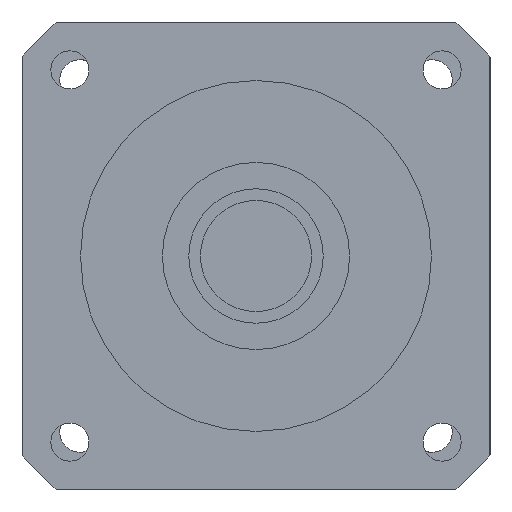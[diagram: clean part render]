
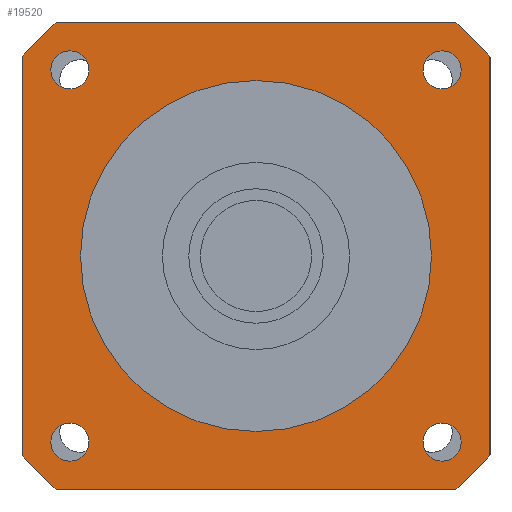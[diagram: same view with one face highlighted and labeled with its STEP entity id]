
A CAD part, left-side view. The second image highlights one B-rep face of the part: STEP entity #19520.
In plain terms, the highlighted planar face has unit normal (-1, 0, 0) as drawn and (0, 0, -1) by its records, which use the part's own axes.
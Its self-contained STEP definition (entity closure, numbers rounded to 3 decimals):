
#17850=CARTESIAN_POINT('',(28.57,-31.82,-42.));
#17860=VERTEX_POINT('',#17850);
#17890=CARTESIAN_POINT('',(31.82,-31.82,-42.));
#17900=DIRECTION('',(0.,0.,-1.));
#17910=DIRECTION('',(1.,0.,0.));
#17920=AXIS2_PLACEMENT_3D('',#17890,#17900,#17910);
#17930=CIRCLE('',#17920,3.25);
#17940=CARTESIAN_POINT('',(35.07,-31.82,-42.));
#17950=VERTEX_POINT('',#17940);
#17960=EDGE_CURVE('',#17950,#17860,#17930,.T.);
#18080=CARTESIAN_POINT('',(40.,40.,-42.));
#18090=DIRECTION('',(0.,0.,-1.));
#18100=DIRECTION('',(1.,0.,0.));
#18110=AXIS2_PLACEMENT_3D('',#18080,#18090,#18100);
#18120=PLANE('',#18110);
#18130=CARTESIAN_POINT('',(-31.82,-31.82,-42.));
#18140=DIRECTION('',(0.,0.,-1.));
#18150=DIRECTION('',(0.,-1.,0.));
#18160=AXIS2_PLACEMENT_3D('',#18130,#18140,#18150);
#18170=CIRCLE('',#18160,3.25);
#18180=CARTESIAN_POINT('',(-31.82,-35.07,-42.));
#18190=VERTEX_POINT('',#18180);
#18200=CARTESIAN_POINT('',(-31.82,-28.57,-42.));
#18210=VERTEX_POINT('',#18200);
#18220=EDGE_CURVE('',#18190,#18210,#18170,.T.);
#18230=ORIENTED_EDGE('',*,*,#18220,.F.);
#18240=EDGE_CURVE('',#18210,#18190,#18170,.T.);
#18250=ORIENTED_EDGE('',*,*,#18240,.F.);
#18260=EDGE_LOOP('',(#18250,#18230));
#18270=FACE_BOUND('',#18260,.T.);
#18280=CARTESIAN_POINT('',(-31.82,31.82,-42.));
#18290=DIRECTION('',(0.,0.,-1.));
#18300=DIRECTION('',(-1.,0.,0.));
#18310=AXIS2_PLACEMENT_3D('',#18280,#18290,#18300);
#18320=CIRCLE('',#18310,3.25);
#18330=CARTESIAN_POINT('',(-35.07,31.82,-42.));
#18340=VERTEX_POINT('',#18330);
#18350=CARTESIAN_POINT('',(-28.57,31.82,-42.));
#18360=VERTEX_POINT('',#18350);
#18370=EDGE_CURVE('',#18340,#18360,#18320,.T.);
#18380=ORIENTED_EDGE('',*,*,#18370,.F.);
#18390=EDGE_CURVE('',#18360,#18340,#18320,.T.);
#18400=ORIENTED_EDGE('',*,*,#18390,.F.);
#18410=EDGE_LOOP('',(#18400,#18380));
#18420=FACE_BOUND('',#18410,.T.);
#18430=CARTESIAN_POINT('',(31.82,31.82,-42.));
#18440=DIRECTION('',(0.,0.,-1.));
#18450=DIRECTION('',(0.,1.,0.));
#18460=AXIS2_PLACEMENT_3D('',#18430,#18440,#18450);
#18470=CIRCLE('',#18460,3.25);
#18480=CARTESIAN_POINT('',(31.82,35.07,-42.));
#18490=VERTEX_POINT('',#18480);
#18500=CARTESIAN_POINT('',(31.82,28.57,-42.));
#18510=VERTEX_POINT('',#18500);
#18520=EDGE_CURVE('',#18490,#18510,#18470,.T.);
#18530=ORIENTED_EDGE('',*,*,#18520,.F.);
#18540=EDGE_CURVE('',#18510,#18490,#18470,.T.);
#18550=ORIENTED_EDGE('',*,*,#18540,.F.);
#18560=EDGE_LOOP('',(#18550,#18530));
#18570=FACE_BOUND('',#18560,.T.);
#18580=CARTESIAN_POINT('',(0.,0.,
-42.));
#18590=DIRECTION('',(0.,0.,1.));
#18600=DIRECTION('',(0.,1.,0.));
#18610=AXIS2_PLACEMENT_3D('',#18580,#18590,#18600);
#18620=CIRCLE('',#18610,30.);
#18630=CARTESIAN_POINT('',(-30.,0.,-42.));
#18640=VERTEX_POINT('',#18630);
#18650=CARTESIAN_POINT('',(30.,0.,-42.));
#18660=VERTEX_POINT('',#18650);
#18670=EDGE_CURVE('',#18640,#18660,#18620,.T.);
#18680=ORIENTED_EDGE('',*,*,#18670,.T.);
#18690=CARTESIAN_POINT('',(0.,30.,-42.));
#18700=VERTEX_POINT('',#18690);
#18710=EDGE_CURVE('',#18700,#18640,#18620,.T.);
#18720=ORIENTED_EDGE('',*,*,#18710,.T.);
#18730=EDGE_CURVE('',#18660,#18700,#18620,.T.);
#18740=ORIENTED_EDGE('',*,*,#18730,.T.);
#18750=EDGE_LOOP('',(#18740,#18720,#18680));
#18760=FACE_BOUND('',#18750,.T.);
#18770=CARTESIAN_POINT('',(-40.,40.,-42.));
#18780=DIRECTION('',(1.,0.,0.));
#18790=VECTOR('',#18780,1000.);
#18800=LINE('',#18770,#18790);
#18810=CARTESIAN_POINT('',(-34.004,40.,-42.));
#18820=VERTEX_POINT('',#18810);
#18830=CARTESIAN_POINT('',(34.004,40.,-42.));
#18840=VERTEX_POINT('',#18830);
#18850=EDGE_CURVE('',#18820,#18840,#18800,.T.);
#18860=ORIENTED_EDGE('',*,*,#18850,.T.);
#18870=CARTESIAN_POINT('',(0.,0.,
-42.));
#18880=DIRECTION('',(0.,0.,-1.));
#18890=DIRECTION('',(1.,0.,0.));
#18900=AXIS2_PLACEMENT_3D('',#18870,#18880,#18890);
#18910=CIRCLE('',#18900,52.5);
#18920=CARTESIAN_POINT('',(-40.,34.004,-42.));
#18930=VERTEX_POINT('',#18920);
#18940=EDGE_CURVE('',#18930,#18820,#18910,.T.);
#18950=ORIENTED_EDGE('',*,*,#18940,.T.);
#18960=CARTESIAN_POINT('',(-40.,-40.,-42.));
#18970=DIRECTION('',(0.,1.,0.));
#18980=VECTOR('',#18970,1000.);
#18990=LINE('',#18960,#18980);
#19000=CARTESIAN_POINT('',(-40.,-34.004,-42.));
#19010=VERTEX_POINT('',#19000);
#19020=EDGE_CURVE('',#19010,#18930,#18990,.T.);
#19030=ORIENTED_EDGE('',*,*,#19020,.T.);
#19040=CARTESIAN_POINT('',(0.,0.,
-42.));
#19050=DIRECTION('',(0.,0.,-1.));
#19060=DIRECTION('',(1.,0.,0.));
#19070=AXIS2_PLACEMENT_3D('',#19040,#19050,#19060);
#19080=CIRCLE('',#19070,52.5);
#19090=CARTESIAN_POINT('',(-34.004,-40.,-42.));
#19100=VERTEX_POINT('',#19090);
#19110=EDGE_CURVE('',#19100,#19010,#19080,.T.);
#19120=ORIENTED_EDGE('',*,*,#19110,.T.);
#19130=CARTESIAN_POINT('',(40.,-40.,-42.));
#19140=DIRECTION('',(-1.,0.,0.));
#19150=VECTOR('',#19140,1000.);
#19160=LINE('',#19130,#19150);
#19170=CARTESIAN_POINT('',(34.004,-40.,-42.));
#19180=VERTEX_POINT('',#19170);
#19190=EDGE_CURVE('',#19180,#19100,#19160,.T.);
#19200=ORIENTED_EDGE('',*,*,#19190,.T.);
#19210=CARTESIAN_POINT('',(0.,0.,
-42.));
#19220=DIRECTION('',(0.,0.,-1.));
#19230=DIRECTION('',(1.,0.,0.));
#19240=AXIS2_PLACEMENT_3D('',#19210,#19220,#19230);
#19250=CIRCLE('',#19240,52.5);
#19260=CARTESIAN_POINT('',(40.,-34.004,-42.));
#19270=VERTEX_POINT('',#19260);
#19280=EDGE_CURVE('',#19270,#19180,#19250,.T.);
#19290=ORIENTED_EDGE('',*,*,#19280,.T.);
#19300=CARTESIAN_POINT('',(40.,40.,-42.));
#19310=DIRECTION('',(0.,-1.,0.));
#19320=VECTOR('',#19310,1000.);
#19330=LINE('',#19300,#19320);
#19340=CARTESIAN_POINT('',(40.,34.004,-42.));
#19350=VERTEX_POINT('',#19340);
#19360=EDGE_CURVE('',#19350,#19270,#19330,.T.);
#19370=ORIENTED_EDGE('',*,*,#19360,.T.);
#19380=CARTESIAN_POINT('',(0.,0.,
-42.));
#19390=DIRECTION('',(0.,0.,-1.));
#19400=DIRECTION('',(1.,0.,0.));
#19410=AXIS2_PLACEMENT_3D('',#19380,#19390,#19400);
#19420=CIRCLE('',#19410,52.5);
#19430=EDGE_CURVE('',#18840,#19350,#19420,.T.);
#19440=ORIENTED_EDGE('',*,*,#19430,.T.);
#19450=EDGE_LOOP('',(#19440,#19370,#19290,#19200,#19120,#19030,#18950,
#18860));
#19460=FACE_OUTER_BOUND('',#19450,.T.);
#19470=ORIENTED_EDGE('',*,*,#17960,.F.);
#19480=EDGE_CURVE('',#17860,#17950,#17930,.T.);
#19490=ORIENTED_EDGE('',*,*,#19480,.F.);
#19500=EDGE_LOOP('',(#19490,#19470));
#19510=FACE_BOUND('',#19500,.T.);
#19520=ADVANCED_FACE('',(#18270,#18420,#18570,#18760,#19460,#19510),
#18120,.T.);
